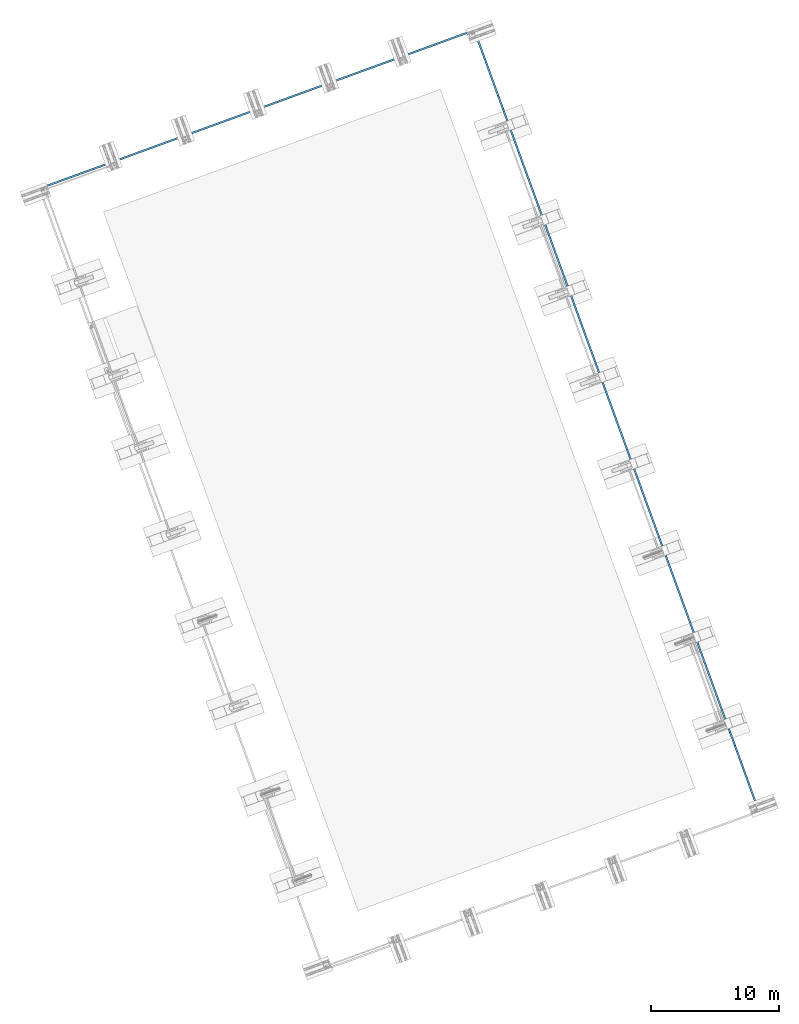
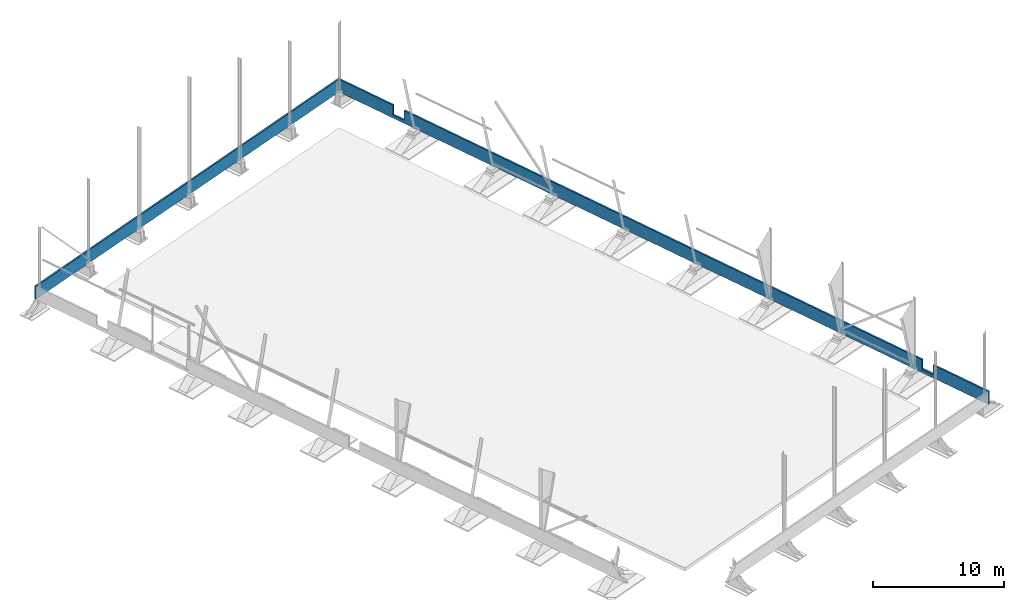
# One storey, part 20 of 20: 2 walls, 2 openings, 2 elements without a shape of their own.
"""IFC4 building model written with IfcOpenShell, lengths in millimetres."""

from ifc_helpers import new_model, si_unit, direction, frame, origin_with_axes, place, context, subcontext, project, spatial, line, indexed_curve, outline, extrude, polygons, material, element, aggregate, save


model = new_model("IFC4")

# Units and contexts
model_context = context("Model", 3, precision=0.2, world=frame((203566.813, 116264.779, 0.0), z_axis=(0.0, 0.0, 1.0), x_axis=(1.0, 0.0, 0.0)), true_north=direction((-0.9396138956, -0.3422363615)))
body_context = subcontext(model_context, "Body", "Model", "MODEL_VIEW")
reference_context = subcontext(model_context, "Reference", "Model", "MODEL_VIEW")
ifc_project = project(units=[si_unit("LENGTHUNIT", "METRE", prefix="MILLI"), si_unit("AREAUNIT", "SQUARE_METRE"), si_unit("VOLUMEUNIT", "CUBIC_METRE"), si_unit("MASSUNIT", "GRAM", prefix="KILO"), si_unit("TIMEUNIT", "SECOND"), si_unit("PLANEANGLEUNIT", "RADIAN"), si_unit("SOLIDANGLEUNIT", "STERADIAN"), si_unit("THERMODYNAMICTEMPERATUREUNIT", "DEGREE_CELSIUS"), si_unit("LUMINOUSINTENSITYUNIT", "LUMEN")], contexts=[model_context])

# Site, building, storey
site_placement = place(None, origin_with_axes())
site = spatial("IfcSite", under=ifc_project, at=site_placement, Name="Nobelprojektet", CompositionType="ELEMENT")
building_placement = place(site_placement, origin_with_axes())
building = spatial("IfcBuilding", under=site, at=building_placement, Name="Hall B", CompositionType="ELEMENT")
storey_placement = place(building_placement, frame((0.0, 0.0, 1000.0), z_axis=(0.0, 0.0, 1.0), x_axis=(1.0, 0.0, 0.0)))
storey = spatial("IfcBuildingStorey", under=building, at=storey_placement, Name="Plan_1", CompositionType="ELEMENT", Elevation=1000.0)

# Assembly, wall, voiding features
assembly_1_placement = place(storey_placement, frame((184460.85156, 125110.27522, 132475.0), z_axis=(0.9396136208, 0.3422371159, 0.0), x_axis=(-0.3422371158, 0.9396136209, 1.3e-09)))
assembly_1 = element("IfcElementAssembly", 1, at=assembly_1_placement, inside=storey, Name="YV99", PredefinedType="NOTDEFINED")
ifc_material = material(Name="Concrete_Undefined", Category="CONCRETE")
wall_1_placement = place(assembly_1_placement, origin_with_axes())
wall_1 = element("IfcWall", 2, at=wall_1_placement, material=ifc_material, Name="BEFINTLIG", PredefinedType="NOTDEFINED", context=body_context, shape_type="Tessellation", body=[
    polygons([(58449.975, 600.0, 75.0), (58449.975, -305.0, 75.0), (58449.975, -305.0, -75.0), (58449.975, 600.0, -75.0), (59549.975, -305.0, 75.0), (59549.975, -305.0, -75.0), (59549.975, 600.0, 75.0), (59549.975, 600.0, -75.0), (6650.0, 600.0, 75.0), (6650.0, 600.0, -75.0), (6650.0, -305.0, -75.0), (6650.0, -305.0, 75.0), (5550.0, -305.0, -75.0), (5550.0, -305.0, 75.0), (5550.0, 600.0, 75.0), (5550.0, 600.0, -75.0), (0.0, 600.0, -75.0), (0.0, 600.0, 75.0), (0.0, -600.0, 75.0), (0.0, -600.0, -75.0), (65100.0, -600.0, -75.0), (65100.0, -600.0, 75.0), (65100.0, 600.0, 75.0), (65100.0, 600.0, -75.0)], [[[1, 2, 3, 4]], [[5, 6, 3, 2]], [[7, 8, 6, 5]], [[9, 10, 11, 12]], [[12, 11, 13, 14]], [[15, 14, 13, 16]], [[17, 18, 15, 16]], [[19, 18, 17, 20]], [[19, 20, 21, 22]], [[23, 22, 21, 24]], [[2, 1, 9, 12, 14, 15, 18, 19, 22, 23, 7, 5]], [[10, 9, 1, 4]], [[24, 21, 20, 17, 16, 13, 11, 10, 4, 3, 6, 8]], [[23, 24, 8, 7]]], closed=True),
])
voiding_feature_1_placement = place(wall_1_placement, frame((6100.0, 170.0, -225.0), z_axis=(-1.0, 0.0, 0.0), x_axis=(0.0, 0.0, 1.0)))
element("IfcVoidingFeature", 3, at=voiding_feature_1_placement, cuts=wall_1, Name="Öxx", PredefinedType="HOLE", context=reference_context, identifier="Reference", shape_type="SolidModel", body=[
    extrude(outline(indexed_curve([(-550.0, -475.0), (550.0, -475.0), (550.0, 475.0), (-550.0, 475.0)], segments=[line(1, 2, 3, 4, 1)])), frame((0.0, 0.0, 0.0), z_axis=(-1.0, 0.0, 0.0), x_axis=(0.0, 0.0, 1.0)), (0.0, 0.0, -1.0), 450.0),
])
voiding_feature_2_placement = place(wall_1_placement, frame((58999.975, 170.0, -224.99998), z_axis=(-1.0, 0.0, 0.0), x_axis=(0.0, 0.0, 1.0)))
element("IfcVoidingFeature", 4, at=voiding_feature_2_placement, cuts=wall_1, Name="Öxx", PredefinedType="HOLE", context=reference_context, identifier="Reference", shape_type="SolidModel", body=[
    extrude(outline(indexed_curve([(-550.0, -475.0), (550.0, -475.0), (550.0, 475.0), (-550.0, 475.0)], segments=[line(1, 2, 3, 4, 1)])), frame((0.0, 0.0, 0.0), z_axis=(-1.0, 0.0, 0.0), x_axis=(0.0, 0.0, 1.0)), (0.0, 0.0, -1.0), 450.0),
])
aggregate(assembly_1, [wall_1])

# Assembly, wall
assembly_2_placement = place(storey_placement, frame((162277.3497, 186234.31709, 132475.0), z_axis=(-0.3422371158, 0.9396136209, 1.3e-09), x_axis=(-0.9396136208, -0.3422371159, 0.0)))
assembly_2 = element("IfcElementAssembly", 5, at=assembly_2_placement, inside=storey, Name="YV99", PredefinedType="NOTDEFINED")
wall_2_placement = place(assembly_2_placement, origin_with_axes())
wall_2 = element("IfcWall", 6, at=wall_2_placement, material=ifc_material, Name="BEFINTLIG", PredefinedType="NOTDEFINED", context=body_context, shape_type="Tessellation", body=[
    polygons([(0.0, -600.0, -75.0), (0.0, 600.0, -75.0), (36300.0, 600.0, -75.0), (36300.0, -600.0, -75.0), (0.0, 600.0, 75.0), (36300.0, 600.0, 75.0), (0.0, -600.0, 75.0), (36300.0, -600.0, 75.0)], [[[1, 2, 3, 4]], [[2, 5, 6, 3]], [[5, 7, 8, 6]], [[7, 1, 4, 8]], [[6, 8, 4, 3]], [[7, 5, 2, 1]]], closed=True),
])
aggregate(assembly_2, [wall_2])

save(model, "model.ifc")
